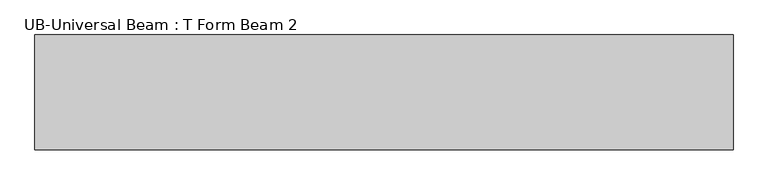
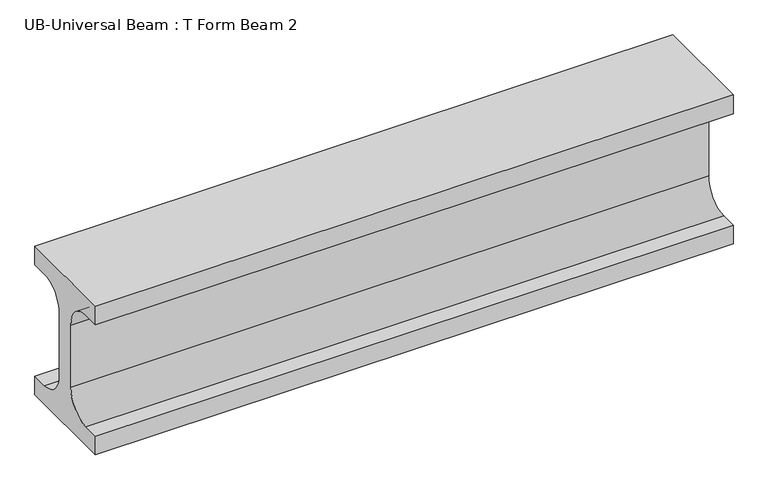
"""IFC4 building model written with IfcOpenShell, lengths in millimetres: beam geometry, UB-Universal Beam : T Form Beam 2."""

from ifc_helpers import new_model, si_unit, point, frame, frame_2d, origin, place, context, project, spatial, polyline, circle_curve, trimmed, segment, composite_curve, outline, extrude, source, transform, mapped, element, save


def ub_universal_beam_t_form_beam_2_892dd12f(model_context):
    return source(origin(), model_context, "Body", "SweptSolid", [
        extrude(outline(composite_curve([segment(polyline([(203.2, -228.6), (203.2, -304.8), (-203.2, -304.8), (-203.2, -228.6), (-139.7, -228.6)]), True, "CONTINUOUS"), segment(trimmed(circle_curve(frame_2d((-139.7, -127.0)), 101.6), [point((-139.7, -228.6))], [point((-38.1, -127.0))], True, "CARTESIAN"), True, "CONTINUOUS"), segment(polyline([(-38.1, -127.0), (-38.1, 127.0)]), True, "CONTINUOUS"), segment(trimmed(circle_curve(frame_2d((-139.7, 127.0)), 101.6), [point((-38.1, 127.0))], [point((-139.7, 228.6))], True, "CARTESIAN"), True, "CONTINUOUS"), segment(polyline([(-139.7, 228.6), (-203.2, 228.6), (-203.2, 304.8), (203.2, 304.8), (203.2, 228.6), (139.7, 228.6)]), True, "CONTINUOUS"), segment(trimmed(circle_curve(frame_2d((139.7, 127.0)), 101.6), [point((139.7, 228.6))], [point((38.1, 127.0))], True, "CARTESIAN"), True, "CONTINUOUS"), segment(polyline([(38.1, 127.0), (38.1, -127.0)]), True, "CONTINUOUS"), segment(trimmed(circle_curve(frame_2d((139.7, -127.0)), 101.6), [point((38.1, -127.0))], [point((139.7, -228.6))], True, "CARTESIAN"), True, "CONTINUOUS"), segment(polyline([(139.7, -228.6), (203.2, -228.6)]), True, "CONTINUOUS")], self_intersect=False)), frame((-1358.7331856, 0.0, 0.0), z_axis=(1.0, 0.0, 0.0), x_axis=(0.0, 1.0, 0.0)), (0.0, 0.0, 1.0), 2474.1876034),
    ])


if __name__ == "__main__":
    model = new_model("IFC4")
    model_context = context("Model", 3, world=origin())
    ifc_project = project(units=[si_unit("LENGTHUNIT", "METRE", prefix="MILLI")], contexts=[model_context])
    site = spatial("IfcSite", under=ifc_project)
    building = spatial("IfcBuilding", under=site)
    placement = place(None, origin())
    ub_universal_beam_t_form_beam_2_shape = ub_universal_beam_t_form_beam_2_892dd12f(model_context)
    element("IfcBeam", 1, ObjectType="UB-Universal Beam : T Form Beam 2", at=placement, inside=building, context=model_context, shape_type="MappedRepresentation", body=[
        mapped(ub_universal_beam_t_form_beam_2_shape, transform((0.0, 0.0, 0.0), x_axis=(1.0, 0.0, 0.0), y_axis=(0.0, 1.0, 0.0), z_axis=(0.0, 0.0, 1.0))),
    ])
    save(model, "model.ifc")
